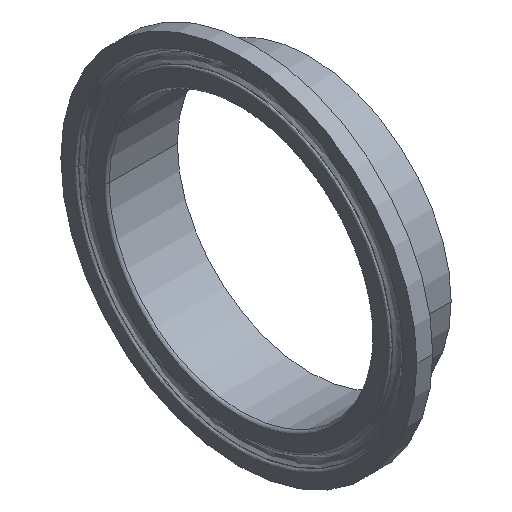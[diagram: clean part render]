
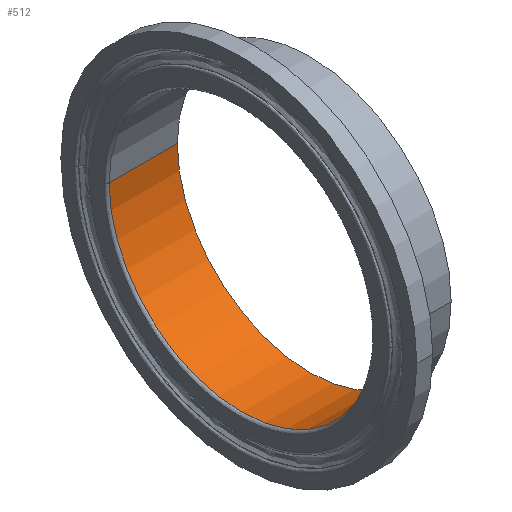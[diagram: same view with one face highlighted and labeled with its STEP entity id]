
A CAD part, isometric view. The second image highlights one B-rep face of the part: STEP entity #512.
In plain terms, the highlighted cylindrical face has radius 23.749 mm (diameter 47.498 mm), a partial arc.
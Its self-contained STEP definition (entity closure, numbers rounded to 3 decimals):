
#4 = DIRECTION ( 'NONE',  ( 1., 0., 0. ) ) ;
#83 = VERTEX_POINT ( 'NONE', #530 ) ;
#122 = AXIS2_PLACEMENT_3D ( 'NONE', #1225, #245, #854 ) ;
#129 = EDGE_CURVE ( 'NONE', #1445, #83, #1486, .T. ) ;
#245 = DIRECTION ( 'NONE',  ( 1., 0., 0. ) ) ;
#248 = ORIENTED_EDGE ( 'NONE', *, *, #647, .F. ) ;
#286 = CARTESIAN_POINT ( 'NONE',  ( 0., 0., 0. ) ) ;
#293 = EDGE_CURVE ( 'NONE', #1229, #391, #827, .T. ) ;
#306 = CARTESIAN_POINT ( 'NONE',  ( 45.786, 23.749, 0. ) ) ;
#365 = CARTESIAN_POINT ( 'NONE',  ( 0., 23.749, 0. ) ) ;
#391 = VERTEX_POINT ( 'NONE', #491 ) ;
#412 = ORIENTED_EDGE ( 'NONE', *, *, #129, .F. ) ;
#422 = VECTOR ( 'NONE', #1287, 1000. ) ;
#432 = EDGE_CURVE ( 'NONE', #1229, #83, #1145, .T. ) ;
#451 = AXIS2_PLACEMENT_3D ( 'NONE', #915, #905, #1017 ) ;
#456 = LINE ( 'NONE', #306, #422 ) ;
#474 = AXIS2_PLACEMENT_3D ( 'NONE', #286, #924, #1061 ) ;
#483 = CYLINDRICAL_SURFACE ( 'NONE', #122, 23.749 ) ;
#491 = CARTESIAN_POINT ( 'NONE',  ( -12.243, 23.749, 0. ) ) ;
#512 = ADVANCED_FACE ( 'NONE', ( #666 ), #483, .F. ) ;
#530 = CARTESIAN_POINT ( 'NONE',  ( 0., -23.749, 0. ) ) ;
#647 = EDGE_CURVE ( 'NONE', #391, #1445, #456, .T. ) ;
#666 = FACE_OUTER_BOUND ( 'NONE', #1460, .T. ) ;
#827 = CIRCLE ( 'NONE', #451, 23.749 ) ;
#845 = VECTOR ( 'NONE', #4, 1000. ) ;
#854 = DIRECTION ( 'NONE',  ( 0., 1., 0. ) ) ;
#905 = DIRECTION ( 'NONE',  ( 1., 0., 0. ) ) ;
#915 = CARTESIAN_POINT ( 'NONE',  ( -12.243, 0., 0. ) ) ;
#924 = DIRECTION ( 'NONE',  ( -1., 0., 0. ) ) ;
#943 = CARTESIAN_POINT ( 'NONE',  ( -12.243, -23.749, 0. ) ) ;
#1017 = DIRECTION ( 'NONE',  ( 0., 1., 0. ) ) ;
#1061 = DIRECTION ( 'NONE',  ( 0., 1., 0. ) ) ;
#1145 = LINE ( 'NONE', #1354, #845 ) ;
#1225 = CARTESIAN_POINT ( 'NONE',  ( 45.786, 0., 0. ) ) ;
#1229 = VERTEX_POINT ( 'NONE', #943 ) ;
#1287 = DIRECTION ( 'NONE',  ( 1., 0., 0. ) ) ;
#1354 = CARTESIAN_POINT ( 'NONE',  ( 45.786, -23.749, 0. ) ) ;
#1394 = ORIENTED_EDGE ( 'NONE', *, *, #293, .F. ) ;
#1412 = ORIENTED_EDGE ( 'NONE', *, *, #432, .T. ) ;
#1445 = VERTEX_POINT ( 'NONE', #365 ) ;
#1460 = EDGE_LOOP ( 'NONE', ( #1394, #1412, #412, #248 ) ) ;
#1486 = CIRCLE ( 'NONE', #474, 23.749 ) ;
